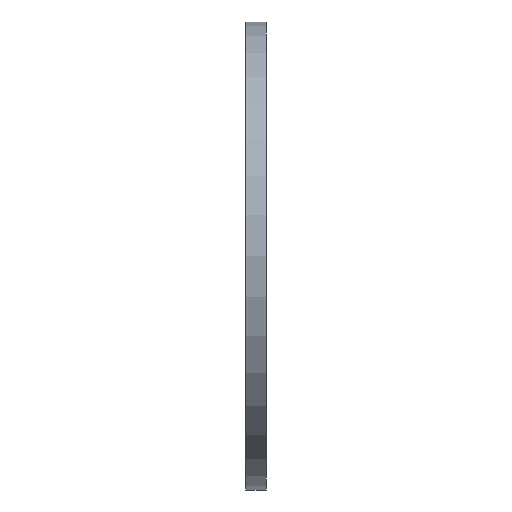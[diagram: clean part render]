
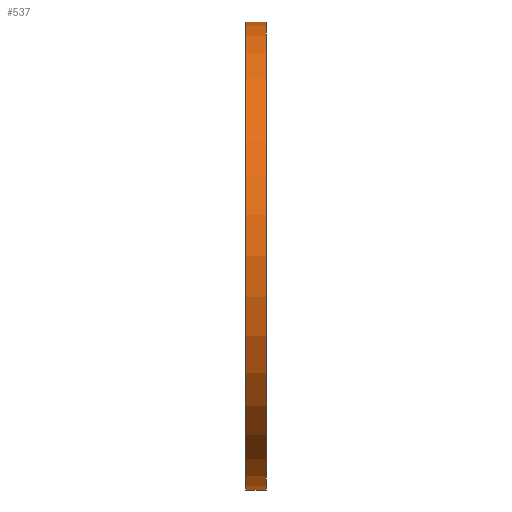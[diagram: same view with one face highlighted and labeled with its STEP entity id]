
A CAD part, left-side view. The second image highlights one B-rep face of the part: STEP entity #537.
In plain terms, the highlighted cylindrical face has radius 170 mm (diameter 340 mm), a partial arc.
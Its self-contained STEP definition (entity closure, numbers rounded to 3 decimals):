
#55 = VERTEX_POINT ( 'NONE', #269 ) ;
#58 = CARTESIAN_POINT ( 'NONE',  ( 0., 0., 0. ) ) ;
#72 = EDGE_LOOP ( 'NONE', ( #462, #490, #784, #706 ) ) ;
#95 = CIRCLE ( 'NONE', #196, 170. ) ;
#159 = AXIS2_PLACEMENT_3D ( 'NONE', #58, #336, #273 ) ;
#196 = AXIS2_PLACEMENT_3D ( 'NONE', #301, #231, #495 ) ;
#202 = DIRECTION ( 'NONE',  ( 0., 1., 0. ) ) ;
#222 = AXIS2_PLACEMENT_3D ( 'NONE', #396, #891, #275 ) ;
#231 = DIRECTION ( 'NONE',  ( 0., 1., 0. ) ) ;
#245 = EDGE_CURVE ( 'NONE', #840, #55, #610, .T. ) ;
#251 = CARTESIAN_POINT ( 'NONE',  ( 0., 0., 170. ) ) ;
#269 = CARTESIAN_POINT ( 'NONE',  ( 0., 15., -170. ) ) ;
#273 = DIRECTION ( 'NONE',  ( 0., 0., 1. ) ) ;
#275 = DIRECTION ( 'NONE',  ( 0., 0., 1. ) ) ;
#301 = CARTESIAN_POINT ( 'NONE',  ( 0., 15., 0. ) ) ;
#310 = DIRECTION ( 'NONE',  ( 0., 1., 0. ) ) ;
#329 = CARTESIAN_POINT ( 'NONE',  ( 0., 0., -170. ) ) ;
#336 = DIRECTION ( 'NONE',  ( 0., 1., 0. ) ) ;
#341 = VERTEX_POINT ( 'NONE', #814 ) ;
#369 = EDGE_CURVE ( 'NONE', #840, #381, #697, .T. ) ;
#380 = CARTESIAN_POINT ( 'NONE',  ( 0., 38.545, -170. ) ) ;
#381 = VERTEX_POINT ( 'NONE', #251 ) ;
#396 = CARTESIAN_POINT ( 'NONE',  ( 0., 38.545, 0. ) ) ;
#409 = CYLINDRICAL_SURFACE ( 'NONE', #222, 170. ) ;
#462 = ORIENTED_EDGE ( 'NONE', *, *, #245, .F. ) ;
#490 = ORIENTED_EDGE ( 'NONE', *, *, #369, .T. ) ;
#495 = DIRECTION ( 'NONE',  ( 0., 0., 1. ) ) ;
#499 = VECTOR ( 'NONE', #202, 1000. ) ;
#510 = LINE ( 'NONE', #870, #853 ) ;
#537 = ADVANCED_FACE ( 'NONE', ( #539 ), #409, .T. ) ;
#539 = FACE_OUTER_BOUND ( 'NONE', #72, .T. ) ;
#610 = LINE ( 'NONE', #380, #499 ) ;
#697 = CIRCLE ( 'NONE', #159, 170. ) ;
#706 = ORIENTED_EDGE ( 'NONE', *, *, #708, .F. ) ;
#708 = EDGE_CURVE ( 'NONE', #55, #341, #95, .T. ) ;
#784 = ORIENTED_EDGE ( 'NONE', *, *, #856, .T. ) ;
#814 = CARTESIAN_POINT ( 'NONE',  ( 0., 15., 170. ) ) ;
#840 = VERTEX_POINT ( 'NONE', #329 ) ;
#853 = VECTOR ( 'NONE', #310, 1000. ) ;
#856 = EDGE_CURVE ( 'NONE', #381, #341, #510, .T. ) ;
#870 = CARTESIAN_POINT ( 'NONE',  ( 0., 38.545, 170. ) ) ;
#891 = DIRECTION ( 'NONE',  ( 0., 1., 0. ) ) ;
